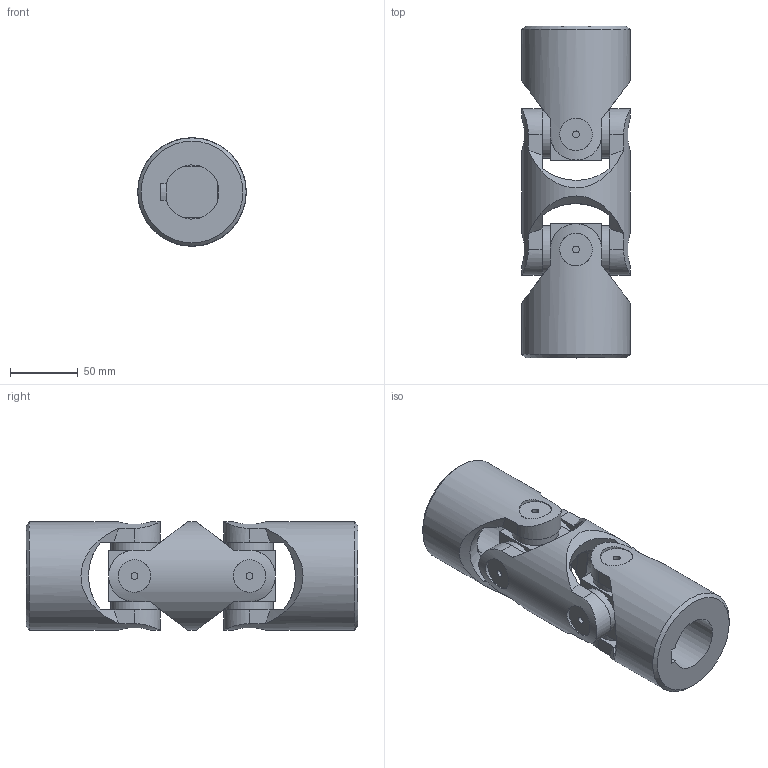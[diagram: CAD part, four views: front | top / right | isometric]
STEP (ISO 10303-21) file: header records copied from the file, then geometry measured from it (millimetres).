
FILE_DESCRIPTION(/* description */ (''),/* implementation_level */ '2;1');
FILE_NAME(/* name */ '\\SRV2016\Societa\Stefano\Disegni 3D\00Catalogo 3D\02Doppi GD-GBD\SG0D402C.stp',/* time_stamp */ '2021-11-23T16:02:58+01:00',/* author */ ('acquisti'),/* organization */ (''),/* preprocessor_version */ 'ST-DEVELOPER v15.6',/* originating_system */ 'Autodesk Inventor 2015',/* authorisation */ '');
FILE_SCHEMA (('AUTOMOTIVE_DESIGN { 1 0 10303 214 3 1 1 }'));
Length unit declared in the file: millimetre
Products named in the file (4): 8G MOD; 8G SFE; 8G MOC; Ø80_8GD-00_SG0D4000
Assembly tree (5 placements, depth 2):
  Ø80_8GD-00_SG0D4000
    8G MOD
    8G SFE  x2
    8G MOC  x2
Bounding box: 80 x 245 x 80 mm (x, y, z)
Volume: 769751.8 mm3; surface area: 126341.1 mm2
Topology: 5 solids, 5 shells, 147 faces, 361 edges, 244 vertices
Faces by surface type: plane 76, cylinder 43, cone 24, torus 4
Full cylindrical faces by diameter (mm): 5 x8, 24 x8, 35 x8, 47 x2, 80 x3
Entity records: 3635 total; most frequent: CARTESIAN_POINT 1391, ORIENTED_EDGE 440, DIRECTION 421, EDGE_CURVE 220, AXIS2_PLACEMENT_3D 181, VERTEX_POINT 166, EDGE_LOOP 142, FACE_OUTER_BOUND 99
